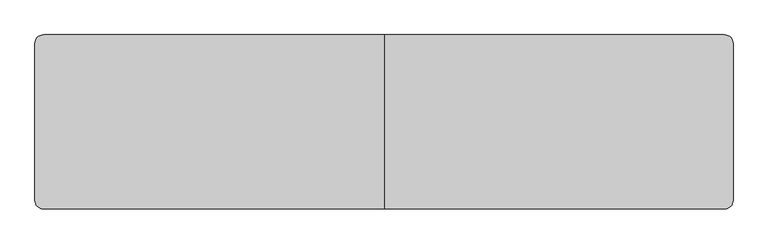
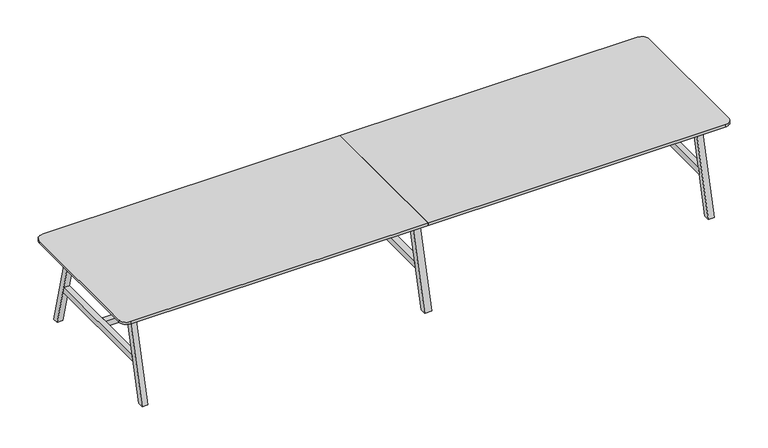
"""IFC4 building model written with IfcOpenShell, lengths in millimetres: furniture geometry, BDG_BossDesign_Tbls_AgentTables6Legs : AGE-DT-6L-4800-1200-3D."""

from ifc_helpers import new_model, si_unit, point, frame, frame_2d, origin, place, context, project, spatial, polyline, circle_curve, trimmed, segment, composite_curve, outline, extrude, source, transform, mapped, element, save


def furniture_b3756201(model_context):
    return source(origin(), model_context, "Body", "SweptSolid", [
        extrude(outline(polyline([(600.0, 0.0), (554.9999949, 0.0), (385.5, 660.0), (430.5000051, 660.0), (600.0, 0.0)])), frame((-27.5, 0.0, 0.0), z_axis=(1.0, 0.0, 0.0), x_axis=(0.0, 1.0, 0.0)), (0.0, 0.0, 1.0), 55.0),
        extrude(outline(polyline([(-600.0, 0.0), (-430.5000051, 660.0), (-385.5, 660.0), (-554.9999949, 0.0), (-600.0, 0.0)])), frame((-27.5, 0.0, 0.0), z_axis=(1.0, 0.0, 0.0), x_axis=(0.0, 1.0, 0.0)), (0.0, 0.0, 1.0), 55.0),
        extrude(outline(polyline([(477.9545427, 300.0), (-477.9545427, 300.0), (-466.3977249, 345.0), (466.3977249, 345.0), (477.9545427, 300.0)])), frame((-27.5, 0.0, 0.0), z_axis=(1.0, 0.0, 0.0), x_axis=(0.0, 1.0, 0.0)), (0.0, 0.0, 1.0), 55.0),
        extrude(outline(composite_curve([segment(polyline([(0.0, 600.0), (0.0, -600.0), (-2340.0, -600.0)]), True, "CONTINUOUS"), segment(trimmed(circle_curve(frame_2d((-2340.0, -540.0)), 60.0), [point((-2340.0, -600.0))], [point((-2400.0, -540.0))], False, "CARTESIAN"), True, "CONTINUOUS"), segment(polyline([(-2400.0, -540.0), (-2400.0, 540.0)]), True, "CONTINUOUS"), segment(trimmed(circle_curve(frame_2d((-2340.0, 540.0)), 60.0), [point((-2400.0, 540.0))], [point((-2340.0, 600.0))], False, "CARTESIAN"), True, "CONTINUOUS"), segment(polyline([(-2340.0, 600.0), (0.0, 600.0)]), True, "CONTINUOUS")], self_intersect=False)), frame((0.0, 0.0, 722.0), z_axis=(0.0, 0.0, 1.0), x_axis=(1.0, 0.0, 0.0)), (0.0, 0.0, 1.0), 18.0),
        extrude(outline(polyline([(-466.3977249, 345.0), (466.3977249, 345.0), (477.9545427, 300.0), (-477.9545427, 300.0), (-466.3977249, 345.0)])), frame((2205.0, 0.0, 0.0), z_axis=(1.0, 0.0, 0.0), x_axis=(0.0, 1.0, 0.0)), (0.0, 0.0, 1.0), 45.0),
        extrude(outline(polyline([(600.0, 0.0), (554.9999949, 0.0), (385.5, 660.0), (430.5000051, 660.0), (600.0, 0.0)])), frame((-2250.0, 0.0, 0.0), z_axis=(1.0, 0.0, 0.0), x_axis=(0.0, 1.0, 0.0)), (0.0, 0.0, 1.0), 45.0),
        extrude(outline(polyline([(-600.0, 0.0), (-430.5000051, 660.0), (-385.5, 660.0), (-554.9999949, 0.0), (-600.0, 0.0)])), frame((-2250.0, 0.0, 0.0), z_axis=(1.0, 0.0, 0.0), x_axis=(0.0, 1.0, 0.0)), (0.0, 0.0, 1.0), 45.0),
        extrude(outline(polyline([(-466.3977249, 345.0), (466.3977249, 345.0), (477.9545427, 300.0), (-477.9545427, 300.0), (-466.3977249, 345.0)])), frame((-2250.0, 0.0, 0.0), z_axis=(1.0, 0.0, 0.0), x_axis=(0.0, 1.0, 0.0)), (0.0, 0.0, 1.0), 45.0),
        extrude(outline(polyline([(-426.6006165, 634.973938), (-404.2770691, 722.0), (-379.5, 722.0), (-401.8235474, 634.973938), (-426.6006165, 634.973938)])), frame((-2205.0, 0.0, 0.0), z_axis=(1.0, 0.0, 0.0), x_axis=(0.0, 1.0, 0.0)), (0.0, 0.0, 1.0), 4410.0),
        extrude(outline(polyline([(426.6006165, 634.973938), (401.8235474, 634.973938), (379.5, 722.0), (404.2770691, 722.0), (426.6006165, 634.973938)])), frame((-2205.0, 0.0, 0.0), z_axis=(1.0, 0.0, 0.0), x_axis=(0.0, 1.0, 0.0)), (0.0, 0.0, 1.0), 4410.0),
        extrude(outline(polyline([(599.7999878, 0.0), (554.7999827, 0.0), (385.5, 660.0), (430.5000051, 660.0), (599.7999878, 0.0)])), frame((2205.0, 0.0, 0.0), z_axis=(1.0, 0.0, 0.0), x_axis=(0.0, 1.0, 0.0)), (0.0, 0.0, 1.0), 45.0),
        extrude(outline(polyline([(-599.7999878, 0.0), (-430.5000051, 660.0), (-385.5, 660.0), (-554.7999827, 0.0), (-599.7999878, 0.0)])), frame((2205.0, 0.0, 0.0), z_axis=(1.0, 0.0, 0.0), x_axis=(0.0, 1.0, 0.0)), (0.0, 0.0, 1.0), 45.0),
        extrude(outline(polyline([(-27.5, 22.5000305), (-27.5, -22.5000305), (-2205.0, -22.5000305), (-2205.0, 22.5000305), (-27.5, 22.5000305)])), frame((0.0, 0.0, 300.0), z_axis=(0.0, 0.0, 1.0), x_axis=(1.0, 0.0, 0.0)), (0.0, 0.0, 1.0), 45.0),
        extrude(outline(polyline([(27.5, -22.5000305), (27.5, 22.5000305), (2205.0, 22.5000305), (2205.0, -22.5000305), (27.5, -22.5000305)])), frame((0.0, 0.0, 300.0), z_axis=(0.0, 0.0, 1.0), x_axis=(1.0, 0.0, 0.0)), (0.0, 0.0, 1.0), 45.0),
        extrude(outline(composite_curve([segment(trimmed(circle_curve(frame_2d((2340.0, 540.0)), 60.0), [point((2340.0, 600.0))], [point((2400.0, 540.0))], False, "CARTESIAN"), True, "CONTINUOUS"), segment(polyline([(2400.0, 540.0), (2400.0, -540.0)]), True, "CONTINUOUS"), segment(trimmed(circle_curve(frame_2d((2340.0, -540.0)), 60.0), [point((2400.0, -540.0))], [point((2340.0, -600.0))], False, "CARTESIAN"), True, "CONTINUOUS"), segment(polyline([(2340.0, -600.0), (0.0, -600.0), (0.0, 600.0), (2340.0, 600.0)]), True, "CONTINUOUS")], self_intersect=False)), frame((0.0, 0.0, 722.0), z_axis=(0.0, 0.0, 1.0), x_axis=(1.0, 0.0, 0.0)), (0.0, 0.0, 1.0), 18.0),
    ])


if __name__ == "__main__":
    model = new_model("IFC4")
    model_context = context("Model", 3, world=origin())
    ifc_project = project(units=[si_unit("LENGTHUNIT", "METRE", prefix="MILLI")], contexts=[model_context])
    site = spatial("IfcSite", under=ifc_project)
    building = spatial("IfcBuilding", under=site)
    placement = place(None, origin())
    furniture_shape = furniture_b3756201(model_context)
    element("IfcFurniture", 1, ObjectType="BDG_BossDesign_Tbls_AgentTables6Legs : AGE-DT-6L-4800-1200-3D", at=placement, inside=building, context=model_context, shape_type="MappedRepresentation", body=[
        mapped(furniture_shape, transform((0.0, 0.0, 0.0), x_axis=(1.0, 0.0, 0.0), y_axis=(0.0, 1.0, 0.0), z_axis=(0.0, 0.0, 1.0))),
    ])
    save(model, "model.ifc")
